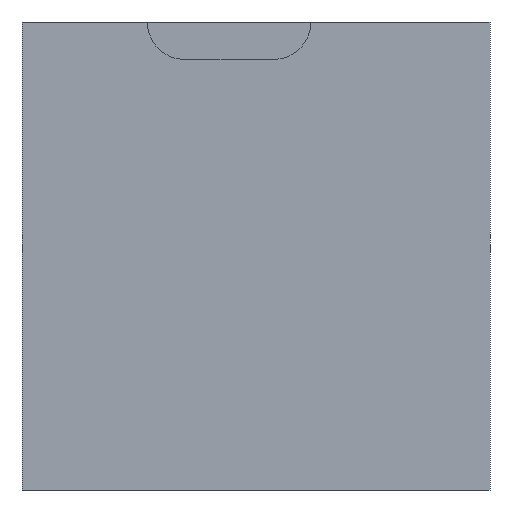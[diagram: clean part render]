
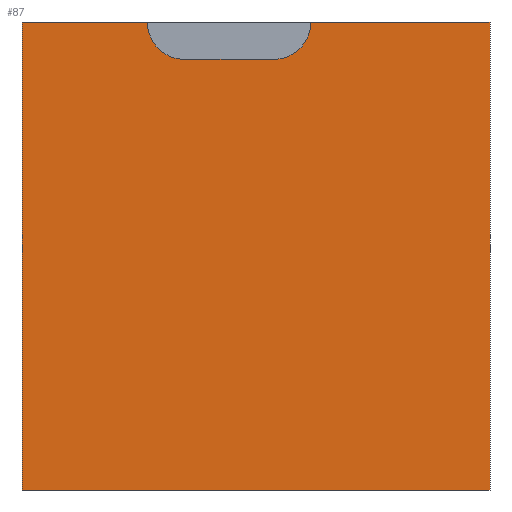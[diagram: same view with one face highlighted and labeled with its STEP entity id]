
A CAD part, front view. The second image highlights one B-rep face of the part: STEP entity #87.
In plain terms, the highlighted planar face has unit normal (0, -1, 0).
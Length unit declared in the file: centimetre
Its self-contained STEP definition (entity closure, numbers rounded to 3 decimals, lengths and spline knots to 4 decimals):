
#7 = CARTESIAN_POINT ( 'NONE',  ( 0., 0., 1000. ) ) ;
#9 = CARTESIAN_POINT ( 'NONE',  ( 0., 0., 0. ) ) ;
#25 = DIRECTION ( 'NONE',  ( 0., 0., -1. ) ) ;
#28 = VECTOR ( 'NONE', #78, 100. ) ;
#30 = LINE ( 'NONE', #469, #173 ) ;
#34 = CARTESIAN_POINT ( 'NONE',  ( 347.5119, 0., 1000. ) ) ;
#36 = EDGE_CURVE ( 'NONE', #254, #435, #320, .T. ) ;
#38 = VERTEX_POINT ( 'NONE', #157 ) ;
#42 = EDGE_CURVE ( 'NONE', #435, #311, #407, .T. ) ;
#68 = VERTEX_POINT ( 'NONE', #9 ) ;
#71 = CARTESIAN_POINT ( 'NONE',  ( 537.4895, 0., 920.0321 ) ) ;
#78 = DIRECTION ( 'NONE',  ( 1., 0., 0. ) ) ;
#80 = PLANE ( 'NONE',  #114 ) ;
#87 = ADVANCED_FACE ( 'NONE', ( #405 ), #80, .F. ) ;
#100 = CIRCLE ( 'NONE', #309, 79.9678 ) ;
#114 = AXIS2_PLACEMENT_3D ( 'NONE', #7, #225, #367 ) ;
#117 = LINE ( 'NONE', #403, #28 ) ;
#120 = EDGE_LOOP ( 'NONE', ( #272, #170, #142, #291, #287, #402, #215, #185 ) ) ;
#121 = DIRECTION ( 'NONE',  ( 1., 0., 0. ) ) ;
#142 = ORIENTED_EDGE ( 'NONE', *, *, #201, .F. ) ;
#157 = CARTESIAN_POINT ( 'NONE',  ( 1000., 0., 0. ) ) ;
#170 = ORIENTED_EDGE ( 'NONE', *, *, #234, .F. ) ;
#173 = VECTOR ( 'NONE', #255, 100. ) ;
#175 = EDGE_CURVE ( 'NONE', #250, #68, #30, .T. ) ;
#176 = DIRECTION ( 'NONE',  ( 1., 0., 0. ) ) ;
#182 = LINE ( 'NONE', #243, #438 ) ;
#185 = ORIENTED_EDGE ( 'NONE', *, *, #42, .F. ) ;
#201 = EDGE_CURVE ( 'NONE', #250, #241, #117, .T. ) ;
#203 = EDGE_CURVE ( 'NONE', #311, #461, #317, .T. ) ;
#204 = VECTOR ( 'NONE', #121, 100. ) ;
#210 = VECTOR ( 'NONE', #224, 100. ) ;
#215 = ORIENTED_EDGE ( 'NONE', *, *, #203, .F. ) ;
#216 = CARTESIAN_POINT ( 'NONE',  ( 0., 0., 1000. ) ) ;
#224 = DIRECTION ( 'NONE',  ( 1., 0., 0. ) ) ;
#225 = DIRECTION ( 'NONE',  ( 0., 1., 0. ) ) ;
#234 = EDGE_CURVE ( 'NONE', #241, #254, #100, .T. ) ;
#241 = VERTEX_POINT ( 'NONE', #283 ) ;
#243 = CARTESIAN_POINT ( 'NONE',  ( 1000., 0., 1000. ) ) ;
#249 = LINE ( 'NONE', #351, #365 ) ;
#250 = VERTEX_POINT ( 'NONE', #216 ) ;
#254 = VERTEX_POINT ( 'NONE', #350 ) ;
#255 = DIRECTION ( 'NONE',  ( 0., 0., -1. ) ) ;
#256 = AXIS2_PLACEMENT_3D ( 'NONE', #301, #371, #446 ) ;
#262 = CARTESIAN_POINT ( 'NONE',  ( 617.4573, 0., 1000. ) ) ;
#272 = ORIENTED_EDGE ( 'NONE', *, *, #36, .F. ) ;
#283 = CARTESIAN_POINT ( 'NONE',  ( 267.544, 0., 1000. ) ) ;
#287 = ORIENTED_EDGE ( 'NONE', *, *, #410, .T. ) ;
#291 = ORIENTED_EDGE ( 'NONE', *, *, #175, .T. ) ;
#301 = CARTESIAN_POINT ( 'NONE',  ( 537.4895, 0., 1000. ) ) ;
#309 = AXIS2_PLACEMENT_3D ( 'NONE', #34, #321, #25 ) ;
#311 = VERTEX_POINT ( 'NONE', #262 ) ;
#313 = CARTESIAN_POINT ( 'NONE',  ( 1000., 0., 1000. ) ) ;
#317 = LINE ( 'NONE', #332, #210 ) ;
#320 = LINE ( 'NONE', #468, #204 ) ;
#321 = DIRECTION ( 'NONE',  ( 0., -1., 0. ) ) ;
#332 = CARTESIAN_POINT ( 'NONE',  ( 0., 0., 1000. ) ) ;
#350 = CARTESIAN_POINT ( 'NONE',  ( 347.5119, 0., 920.0321 ) ) ;
#351 = CARTESIAN_POINT ( 'NONE',  ( 0., 0., 0. ) ) ;
#365 = VECTOR ( 'NONE', #176, 100. ) ;
#367 = DIRECTION ( 'NONE',  ( 0., 0., 1. ) ) ;
#371 = DIRECTION ( 'NONE',  ( 0., -1., 0. ) ) ;
#402 = ORIENTED_EDGE ( 'NONE', *, *, #434, .F. ) ;
#403 = CARTESIAN_POINT ( 'NONE',  ( 0., 0., 1000. ) ) ;
#405 = FACE_OUTER_BOUND ( 'NONE', #120, .T. ) ;
#407 = CIRCLE ( 'NONE', #256, 79.9678 ) ;
#410 = EDGE_CURVE ( 'NONE', #68, #38, #249, .T. ) ;
#420 = DIRECTION ( 'NONE',  ( 0., 0., -1. ) ) ;
#434 = EDGE_CURVE ( 'NONE', #461, #38, #182, .T. ) ;
#435 = VERTEX_POINT ( 'NONE', #71 ) ;
#438 = VECTOR ( 'NONE', #420, 100. ) ;
#446 = DIRECTION ( 'NONE',  ( 0., 0., -1. ) ) ;
#461 = VERTEX_POINT ( 'NONE', #313 ) ;
#468 = CARTESIAN_POINT ( 'NONE',  ( 347.5119, 0., 920.0321 ) ) ;
#469 = CARTESIAN_POINT ( 'NONE',  ( 0., 0., 1000. ) ) ;
